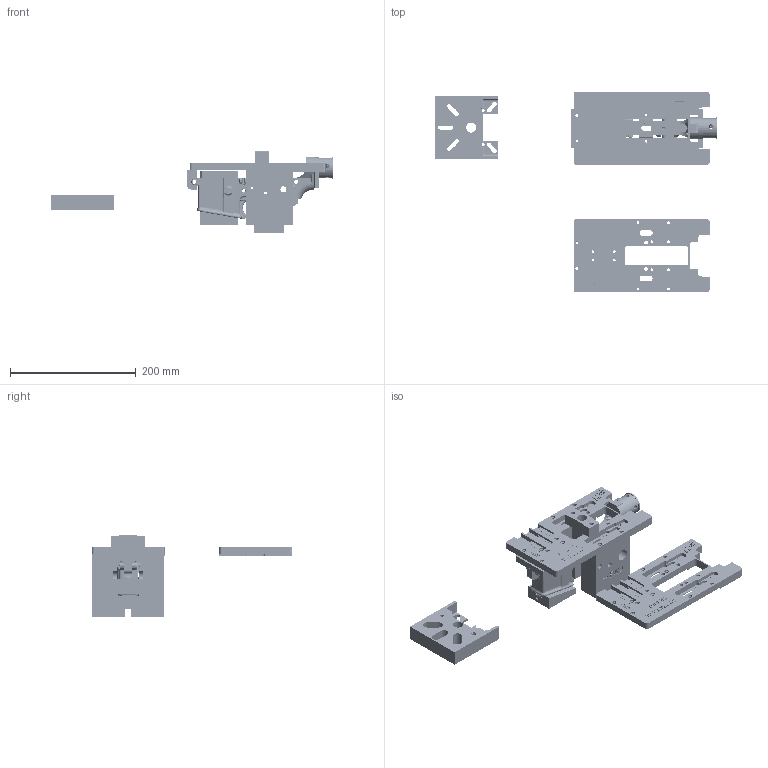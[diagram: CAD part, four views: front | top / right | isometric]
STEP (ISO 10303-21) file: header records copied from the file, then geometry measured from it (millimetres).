
FILE_DESCRIPTION(/* description */ (''),/* implementation_level */ '2;1');
FILE_NAME(/* name */ 'C:/Users/mpacillo/Desktop/MISC/_ZIP/3DT2APRO/3D Tactical 2A Pro.step',/* time_stamp */ '2022-01-05T22:50:08-05:00',/* author */ (''),/* organization */ (''),/* preprocessor_version */ 'ST-DEVELOPER v18.1',/* originating_system */ 'Autodesk Translation Framework v10.10.0.1391',/* authorisation */ '');
FILE_SCHEMA (('AUTOMOTIVE_DESIGN { 1 0 10303 214 3 1 1 }'));
Products named in the file (14): 3D Tactical 2A Pro; MAIN BODY; Regular Top Plate; M4 Top Plate; Left Block; Right Block; Pilot Guide;  Buffer Cap; Router Plate; AR15; AR15 Pivot; AR15 Back; AR15 Vise Block; AR15 Lower Receiver
Assembly tree (13 placements, depth 3):
  3D Tactical 2A Pro
    MAIN BODY
      Regular Top Plate
      M4 Top Plate
      Left Block
      Right Block
      Pilot Guide
       Buffer Cap
      Router Plate
    AR15
      AR15 Pivot
      AR15 Back
      AR15 Vise Block
      AR15 Lower Receiver
Bounding box: 449.63 x 319.2 x 129.29 mm (x, y, z)
Volume: 1355591.5 mm3; surface area: 343610.4 mm2
Topology: 11 solids, 11 shells, 13593 faces, 37780 edges, 25094 vertices
Faces by surface type: bspline 6543, plane 6360, cylinder 598, torus 41, cone 32, sphere 19
Full cylindrical faces by diameter (mm): 1.981 x1, 2.4 x2, 2.464 x2, 3.175 x1, 3.2 x1, 3.239 x2, 3.353 x3, 3.95 x1, 3.962 x5, 4.013 x2, 4.47 x30, 4.5 x2, 5.2 x1, 5.55 x1, 5.994 x28, 6.35 x18, 6.375 x4, 6.477 x1, 6.629 x1, 7.036 x22, 7.061 x2, 7.112 x1, 7.163 x1, 7.671 x8, 7.9 x1, 8.014 x4, 8.339 x1, 8.847 x1, 9.55 x2, 11.176 x1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
Entity records: 526352 total; most frequent: CARTESIAN_POINT 221429, ORIENTED_EDGE 75516, DIRECTION 40380, EDGE_CURVE 37758, VERTEX_POINT 25094, LINE 23014, VECTOR 23014, EDGE_LOOP 14678
